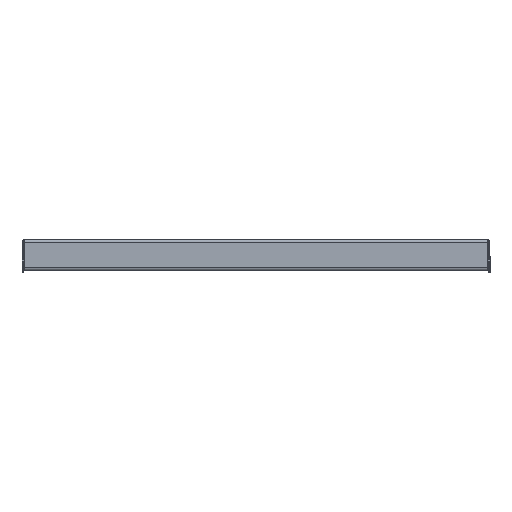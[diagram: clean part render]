
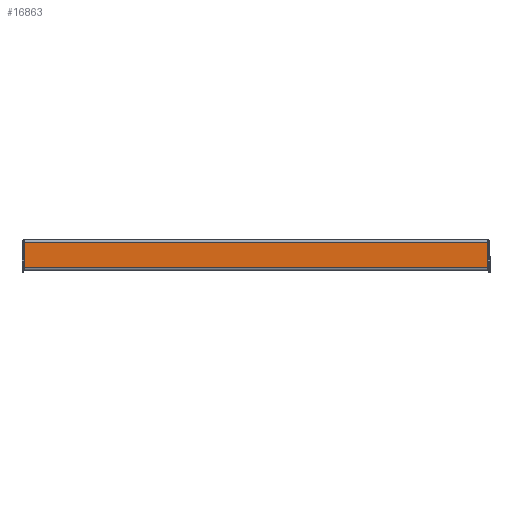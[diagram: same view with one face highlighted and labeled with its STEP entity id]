
A CAD part, left-side view. The second image highlights one B-rep face of the part: STEP entity #16863.
In plain terms, the highlighted planar face has unit normal (-1, 0, 0).
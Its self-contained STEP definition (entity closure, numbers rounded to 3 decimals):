
#648 = EDGE_CURVE ( 'NONE', #3744, #21996, #30072, .T. ) ;
#732 = ORIENTED_EDGE ( 'NONE', *, *, #29797, .F. ) ;
#773 = EDGE_CURVE ( 'NONE', #33600, #3744, #9718, .T. ) ;
#1595 = ORIENTED_EDGE ( 'NONE', *, *, #648, .T. ) ;
#1841 = CARTESIAN_POINT ( 'NONE',  ( -362.2, -340.5, -1.5 ) ) ;
#2987 = AXIS2_PLACEMENT_3D ( 'NONE', #23605, #34120, #7722 ) ;
#3744 = VERTEX_POINT ( 'NONE', #16332 ) ;
#4286 = LINE ( 'NONE', #1841, #27103 ) ;
#6438 = CARTESIAN_POINT ( 'NONE',  ( -362.2, 339.293, -38.5 ) ) ;
#7722 = DIRECTION ( 'NONE',  ( 0., 0., -1. ) ) ;
#9492 = ORIENTED_EDGE ( 'NONE', *, *, #29436, .F. ) ;
#9522 = ORIENTED_EDGE ( 'NONE', *, *, #773, .T. ) ;
#9718 = LINE ( 'NONE', #25763, #10681 ) ;
#10504 = EDGE_LOOP ( 'NONE', ( #1595, #9492, #732, #9522 ) ) ;
#10569 = VECTOR ( 'NONE', #26547, 1000. ) ;
#10681 = VECTOR ( 'NONE', #27645, 1000. ) ;
#14815 = DIRECTION ( 'NONE',  ( 0., -1., 0. ) ) ;
#16332 = CARTESIAN_POINT ( 'NONE',  ( -362.2, 339.293, -38.5 ) ) ;
#16863 = ADVANCED_FACE ( 'NONE', ( #28608 ), #20859, .F. ) ;
#17991 = VERTEX_POINT ( 'NONE', #33447 ) ;
#19864 = CARTESIAN_POINT ( 'NONE',  ( -362.2, -339.293, 0. ) ) ;
#20859 = PLANE ( 'NONE',  #2987 ) ;
#21996 = VERTEX_POINT ( 'NONE', #33445 ) ;
#23605 = CARTESIAN_POINT ( 'NONE',  ( -362.2, 0., 0. ) ) ;
#25763 = CARTESIAN_POINT ( 'NONE',  ( -362.2, 339.293, 0. ) ) ;
#26163 = CARTESIAN_POINT ( 'NONE',  ( -362.2, 339.293, -1.5 ) ) ;
#26547 = DIRECTION ( 'NONE',  ( 0., 0., -1. ) ) ;
#26970 = DIRECTION ( 'NONE',  ( 0., -1., 0. ) ) ;
#27103 = VECTOR ( 'NONE', #14815, 1000. ) ;
#27645 = DIRECTION ( 'NONE',  ( 0., 0., -1. ) ) ;
#28608 = FACE_OUTER_BOUND ( 'NONE', #10504, .T. ) ;
#29436 = EDGE_CURVE ( 'NONE', #17991, #21996, #32966, .T. ) ;
#29797 = EDGE_CURVE ( 'NONE', #33600, #17991, #4286, .T. ) ;
#30072 = LINE ( 'NONE', #6438, #32681 ) ;
#32681 = VECTOR ( 'NONE', #26970, 1000. ) ;
#32966 = LINE ( 'NONE', #19864, #10569 ) ;
#33445 = CARTESIAN_POINT ( 'NONE',  ( -362.2, -339.293, -38.5 ) ) ;
#33447 = CARTESIAN_POINT ( 'NONE',  ( -362.2, -339.293, -1.5 ) ) ;
#33600 = VERTEX_POINT ( 'NONE', #26163 ) ;
#34120 = DIRECTION ( 'NONE',  ( 1., 0., 0. ) ) ;
